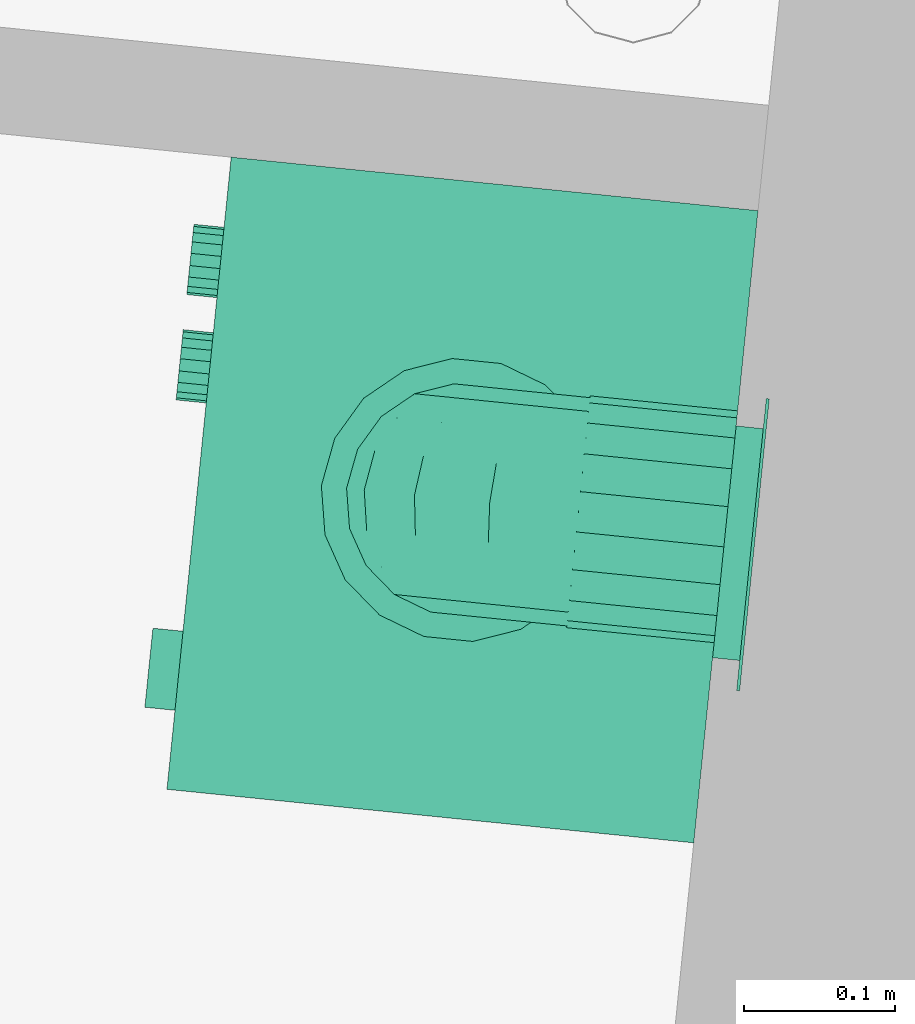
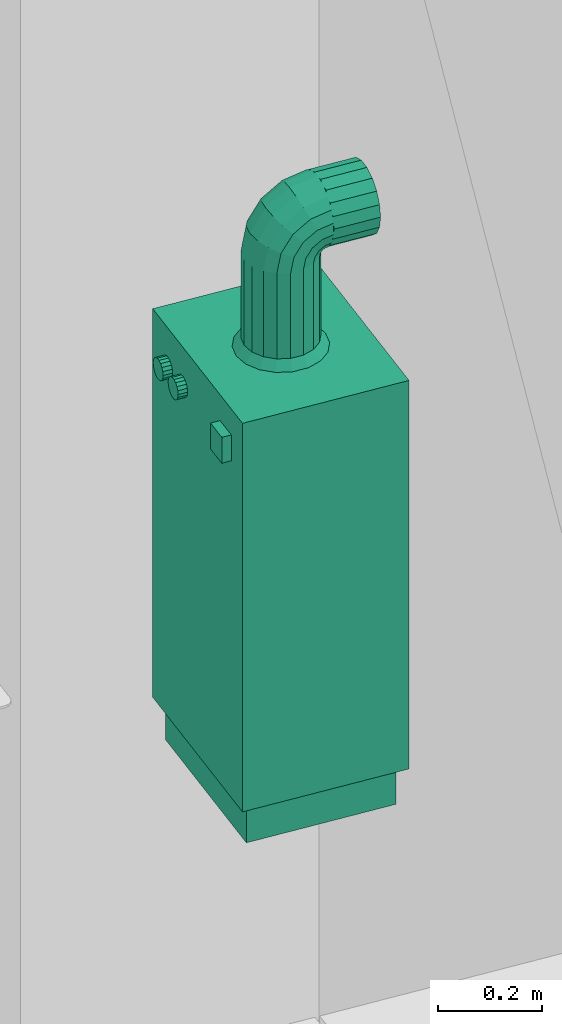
# One storey, part 113 of 164: 1 distribution element.
"""IFC2X3 building model written with IfcOpenShell, lengths in millimetres."""

from ifc_helpers import new_model, entity, si_unit, converted_unit, derived_unit, money_unit, direction, frame, origin_with_axes, place, context, subcontext, project, spatial, open_shell, faceted_brep, surface_model, source, transform, mapped, type_object, element, save


model = new_model("IFC2X3")

# Units and contexts
model_context = context("Model", 3, precision=0.01, world=origin_with_axes(), true_north=direction((0.0, 1.0)))
body_context = subcontext(model_context, "Body", "Model", "MODEL_VIEW")
ifc_project = project(units=[si_unit("LENGTHUNIT", "METRE", prefix="MILLI"), si_unit("AREAUNIT", "SQUARE_METRE"), si_unit("VOLUMEUNIT", "CUBIC_METRE"), converted_unit("PLANEANGLEUNIT", "DEGREE", entity("IfcPlaneAngleMeasure", 0.0174532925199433), si_unit("PLANEANGLEUNIT", "RADIAN"), dimensions=[0, 0, 0, 0, 0, 0, 0]), money_unit("USD"), converted_unit("TIMEUNIT", "Year", entity("IfcTimeMeasure", 31557600.0), si_unit("TIMEUNIT", "SECOND"), dimensions=[0, 0, 1, 0, 0, 0, 0]), si_unit("MASSUNIT", "GRAM", prefix="KILO"), si_unit("THERMODYNAMICTEMPERATUREUNIT", "DEGREE_CELSIUS"), si_unit("LUMINOUSINTENSITYUNIT", "LUMEN"), si_unit("ENERGYUNIT", "JOULE", prefix="MEGA"), derived_unit("THERMALCONDUCTANCEUNIT", [(si_unit("POWERUNIT", "WATT"), 1), (si_unit("LENGTHUNIT", "METRE"), -1), (si_unit("THERMODYNAMICTEMPERATUREUNIT", "KELVIN"), -1)]), derived_unit("SPECIFICHEATCAPACITYUNIT", [(si_unit("ENERGYUNIT", "JOULE"), 1), (si_unit("MASSUNIT", "GRAM", prefix="KILO"), -1), (si_unit("THERMODYNAMICTEMPERATUREUNIT", "KELVIN"), -1)]), derived_unit("MASSDENSITYUNIT", [(si_unit("MASSUNIT", "GRAM", prefix="KILO"), 1), (si_unit("VOLUMEUNIT", "CUBIC_METRE"), -1)])], contexts=[model_context])

# Site, building, storey
site_placement = place(None, origin_with_axes())
site = spatial("IfcSite", under=ifc_project, at=site_placement, Name="Site", CompositionType="ELEMENT")
building_placement = place(site_placement, origin_with_axes())
building = spatial("IfcBuilding", under=site, at=building_placement, Name="Bâtiment", CompositionType="ELEMENT")
storey_placement = place(building_placement, frame((0.0, 0.0, 5750.0), z_axis=(0.0, 0.0, 1.0), x_axis=(1.0, 0.0, 0.0)))
storey = spatial("IfcBuildingStorey", under=building, at=storey_placement, Name="Etage1", CompositionType="ELEMENT", Elevation=5750.0)

# Distribution element
distribution_element_type = type_object("IfcDistributionElementType", Name="Chaudière à gaz 27")
shared_shape = source(origin_with_axes(), body_context, "Body", "SurfaceModel", [
    surface_model("IfcShellBasedSurfaceModel", [(-200.0, 350.0, 34.90909090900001), (-200.0, 368.0, 34.90909090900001), (-180.0709335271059, 368.0, 37.53280228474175), (-180.0709335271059, 350.0, 37.53280228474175), (-219.9290664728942, 350.0, 37.53280228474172), (-219.9290664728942, 368.0, 37.53280228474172), (-161.5, 368.0, 45.22513481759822), (-161.5, 350.0, 45.22513481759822), (-238.5000000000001, 350.0, 45.22513481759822), (-238.5000000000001, 368.0, 45.22513481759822), (-145.5527778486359, 368.0, 57.46186875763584), (-145.5527778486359, 350.0, 57.46186875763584), (-254.4472221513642, 350.0, 57.46186875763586), (-254.4472221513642, 368.0, 57.46186875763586), (-133.3160439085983, 368.0, 73.409090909), (-133.3160439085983, 350.0, 73.409090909), (-266.6839560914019, 350.0, 73.40909090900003), (-266.6839560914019, 368.0, 73.40909090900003), (-125.6237113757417, 368.0, 91.9800244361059), (-125.6237113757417, 350.0, 91.9800244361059), (-274.3762886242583, 350.0, 91.98002443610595), (-274.3762886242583, 368.0, 91.98002443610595), (-123.0, 368.0, 111.909090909), (-123.0, 350.0, 111.909090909), (-277.0, 350.0, 111.909090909), (-277.0, 368.0, 111.909090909), (-125.6237113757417, 368.0, 131.8381573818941), (-125.6237113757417, 350.0, 131.8381573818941), (-274.3762886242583, 350.0, 131.8381573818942), (-274.3762886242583, 368.0, 131.8381573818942), (-133.3160439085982, 368.0, 150.409090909), (-133.3160439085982, 350.0, 150.409090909), (-266.6839560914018, 350.0, 150.4090909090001), (-266.6839560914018, 368.0, 150.4090909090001), (-145.5527778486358, 368.0, 166.3563130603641), (-145.5527778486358, 350.0, 166.3563130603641), (-254.4472221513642, 350.0, 166.3563130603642), (-254.4472221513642, 368.0, 166.3563130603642), (-161.5, 368.0, 178.5930470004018), (-161.5, 350.0, 178.5930470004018), (-238.5, 350.0, 178.5930470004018), (-238.5, 368.0, 178.5930470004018), (-180.0709335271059, 368.0, 186.2853795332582), (-180.0709335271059, 350.0, 186.2853795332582), (-219.929066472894, 350.0, 186.2853795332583), (-219.929066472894, 368.0, 186.2853795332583), (-200.0, 368.0, 188.909090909), (-200.0, 350.0, 188.909090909)], [open_shell([[[0, 1, 2, 3]], [[4, 5, 1, 0]], [[3, 2, 6, 7]], [[8, 9, 5, 4]], [[7, 6, 10, 11]], [[12, 13, 9, 8]], [[11, 10, 14, 15]], [[16, 17, 13, 12]], [[15, 14, 18, 19]], [[20, 21, 17, 16]], [[19, 18, 22, 23]], [[24, 25, 21, 20]], [[23, 22, 26, 27]], [[28, 29, 25, 24]], [[27, 26, 30, 31]], [[32, 33, 29, 28]], [[31, 30, 34, 35]], [[36, 37, 33, 32]], [[35, 34, 38, 39]], [[40, 41, 37, 36]], [[39, 38, 42, 43]], [[44, 45, 41, 40]], [[43, 42, 46, 47]], [[47, 46, 45, 44]]])]),
    faceted_brep([(-200.0, 368.0, 14.909090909), (-200.0, 370.0, 14.909090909), (-174.8945526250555, 370.0, 18.21428575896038), (-174.8945526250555, 368.0, 18.21428575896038), (-225.1054473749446, 368.0, 18.21428575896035), (-225.1054473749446, 370.0, 18.21428575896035), (-248.5000000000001, 370.0, 27.90462674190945), (-268.5893577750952, 370.0, 43.31973313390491), (-284.0044641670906, 370.0, 63.40909090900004), (-293.6948051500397, 370.0, 86.80364353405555), (-297.0000000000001, 370.0, 111.909090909), (-293.6948051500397, 370.0, 137.0145382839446), (-284.0044641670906, 370.0, 160.4090909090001), (-268.5893577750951, 370.0, 180.4984486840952), (-248.5, 370.0, 195.9135550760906), (-225.1054473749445, 370.0, 205.6038960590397), (-199.9999999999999, 370.0, 208.909090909), (-174.8945526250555, 370.0, 205.6038960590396), (-151.5, 370.0, 195.9135550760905), (-131.4106422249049, 370.0, 180.4984486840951), (-115.9955358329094, 370.0, 160.409090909), (-106.3051948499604, 370.0, 137.0145382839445), (-103.0, 370.0, 111.909090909), (-106.3051948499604, 370.0, 86.80364353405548), (-115.9955358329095, 370.0, 63.40909090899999), (-131.4106422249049, 370.0, 43.31973313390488), (-151.5, 370.0, 27.90462674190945), (-200.0, 370.0, 34.90909090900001), (-180.0709335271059, 370.0, 37.53280228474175), (-161.5, 370.0, 45.22513481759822), (-145.5527778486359, 370.0, 57.46186875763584), (-133.3160439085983, 370.0, 73.409090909), (-125.6237113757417, 370.0, 91.9800244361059), (-123.0, 370.0, 111.909090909), (-125.6237113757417, 370.0, 131.8381573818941), (-133.3160439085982, 370.0, 150.409090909), (-145.5527778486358, 370.0, 166.3563130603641), (-161.5, 370.0, 178.5930470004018), (-180.0709335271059, 370.0, 186.2853795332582), (-200.0, 370.0, 188.909090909), (-219.929066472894, 370.0, 186.2853795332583), (-238.5, 370.0, 178.5930470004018), (-254.4472221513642, 370.0, 166.3563130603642), (-266.6839560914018, 370.0, 150.4090909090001), (-274.3762886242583, 370.0, 131.8381573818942), (-277.0, 370.0, 111.909090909), (-274.3762886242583, 370.0, 91.98002443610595), (-266.6839560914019, 370.0, 73.40909090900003), (-254.4472221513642, 370.0, 57.46186875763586), (-238.5000000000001, 370.0, 45.22513481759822), (-219.9290664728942, 370.0, 37.53280228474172), (-151.5, 368.0, 27.90462674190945), (-131.4106422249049, 368.0, 43.31973313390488), (-115.9955358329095, 368.0, 63.40909090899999), (-106.3051948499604, 368.0, 86.80364353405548), (-103.0, 368.0, 111.909090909), (-106.3051948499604, 368.0, 137.0145382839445), (-115.9955358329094, 368.0, 160.409090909), (-131.4106422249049, 368.0, 180.4984486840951), (-151.5, 368.0, 195.9135550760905), (-174.8945526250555, 368.0, 205.6038960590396), (-199.9999999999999, 368.0, 208.909090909), (-225.1054473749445, 368.0, 205.6038960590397), (-248.5, 368.0, 195.9135550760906), (-268.5893577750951, 368.0, 180.4984486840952), (-284.0044641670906, 368.0, 160.4090909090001), (-293.6948051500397, 368.0, 137.0145382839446), (-297.0000000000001, 368.0, 111.909090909), (-293.6948051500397, 368.0, 86.80364353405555), (-284.0044641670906, 368.0, 63.40909090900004), (-268.5893577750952, 368.0, 43.31973313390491), (-248.5000000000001, 368.0, 27.90462674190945), (-200.0, 368.0, 34.90909090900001), (-219.9290664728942, 368.0, 37.53280228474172), (-238.5000000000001, 368.0, 45.22513481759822), (-254.4472221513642, 368.0, 57.46186875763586), (-266.6839560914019, 368.0, 73.40909090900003), (-274.3762886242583, 368.0, 91.98002443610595), (-277.0, 368.0, 111.909090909), (-274.3762886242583, 368.0, 131.8381573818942), (-266.6839560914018, 368.0, 150.4090909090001), (-254.4472221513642, 368.0, 166.3563130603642), (-238.5, 368.0, 178.5930470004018), (-219.929066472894, 368.0, 186.2853795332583), (-200.0, 368.0, 188.909090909), (-180.0709335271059, 368.0, 186.2853795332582), (-161.5, 368.0, 178.5930470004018), (-145.5527778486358, 368.0, 166.3563130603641), (-133.3160439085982, 368.0, 150.409090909), (-125.6237113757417, 368.0, 131.8381573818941), (-123.0, 368.0, 111.909090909), (-125.6237113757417, 368.0, 91.9800244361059), (-133.3160439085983, 368.0, 73.409090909), (-145.5527778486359, 368.0, 57.46186875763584), (-161.5, 368.0, 45.22513481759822), (-180.0709335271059, 368.0, 37.53280228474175)], [[[0, 1, 2, 3]], [[4, 5, 1, 0]], [[1, 5, 6, 7, 8, 9, 10, 11, 12, 13, 14, 15, 16, 17, 18, 19, 20, 21, 22, 23, 24, 25, 26, 2], [27, 28, 29, 30, 31, 32, 33, 34, 35, 36, 37, 38, 39, 40, 41, 42, 43, 44, 45, 46, 47, 48, 49, 50]], [[3, 2, 26, 51]], [[0, 3, 51, 52, 53, 54, 55, 56, 57, 58, 59, 60, 61, 62, 63, 64, 65, 66, 67, 68, 69, 70, 71, 4], [72, 73, 74, 75, 76, 77, 78, 79, 80, 81, 82, 83, 84, 85, 86, 87, 88, 89, 90, 91, 92, 93, 94, 95]], [[71, 6, 5, 4]], [[70, 7, 6, 71]], [[69, 8, 7, 70]], [[68, 9, 8, 69]], [[67, 10, 9, 68]], [[66, 11, 10, 67]], [[65, 12, 11, 66]], [[64, 13, 12, 65]], [[63, 14, 13, 64]], [[62, 15, 14, 63]], [[61, 16, 15, 62]], [[60, 17, 16, 61]], [[59, 18, 17, 60]], [[58, 19, 18, 59]], [[57, 20, 19, 58]], [[56, 21, 20, 57]], [[55, 22, 21, 56]], [[54, 23, 22, 55]], [[53, 24, 23, 54]], [[52, 25, 24, 53]], [[51, 26, 25, 52]], [[95, 28, 27, 72]], [[94, 29, 28, 95]], [[93, 30, 29, 94]], [[92, 31, 30, 93]], [[91, 32, 31, 92]], [[90, 33, 32, 91]], [[89, 34, 33, 90]], [[88, 35, 34, 89]], [[87, 36, 35, 88]], [[86, 37, 36, 87]], [[85, 38, 37, 86]], [[84, 39, 38, 85]], [[83, 40, 39, 84]], [[82, 41, 40, 83]], [[81, 42, 41, 82]], [[80, 43, 42, 81]], [[79, 44, 43, 80]], [[78, 45, 44, 79]], [[77, 46, 45, 78]], [[76, 47, 46, 77]], [[75, 48, 47, 76]], [[74, 49, 48, 75]], [[73, 50, 49, 74]], [[72, 27, 50, 73]]]),
    faceted_brep([(-399.0, 17.5, 0.0), (-399.0, 332.5, 0.0), (-21.0, 332.5, 0.0), (-21.0, 17.5, 0.0), (-399.0, 17.5, 90.9090909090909), (-399.0, 332.5, 90.9090909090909), (-21.0, 332.5, 90.9090909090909), (-21.0, 17.5, 90.9090909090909)], [[[0, 1, 2, 3]], [[0, 4, 5, 1]], [[1, 5, 6, 2]], [[2, 6, 7, 3]], [[3, 7, 4, 0]], [[7, 6, 5, 4]]]),
    faceted_brep([(0.0, 350.0, 90.9090909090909), (-420.0, 350.0, 90.90909090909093), (-419.9999999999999, 350.0, 1000.0), (0.0, 350.0, 1000.0), (0.0, 0.0, 90.9090909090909), (-420.0, 0.0, 90.90909090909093), (-419.9999999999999, 0.0, 818.1818181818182), (-419.9999999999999, 17.5, 818.1818181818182), (-419.9999999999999, 17.5, 1000.0), (0.0, 17.5, 1000.0), (0.0, 17.5, 818.1818181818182), (0.0, 0.0, 818.1818181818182)], [[[0, 1, 2, 3]], [[4, 5, 1, 0]], [[1, 5, 6, 7, 8, 2]], [[3, 2, 8, 9]], [[0, 3, 9, 10, 11, 4]], [[11, 6, 5, 4]], [[10, 7, 6, 11]], [[9, 8, 7, 10]]]),
    faceted_brep([(-420.0, 0.0, 818.1818181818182), (-420.0, 17.5, 818.1818181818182), (0.0, 17.5, 818.1818181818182), (0.0, 0.0, 818.1818181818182), (-420.0, 0.0, 1000.0), (-420.0, 17.5, 1000.0), (0.0, 17.5, 1000.0), (0.0, 0.0, 1000.0)], [[[0, 1, 2, 3]], [[0, 4, 5, 1]], [[1, 5, 6, 2]], [[2, 6, 7, 3]], [[3, 7, 4, 0]], [[7, 6, 5, 4]]]),
    faceted_brep([(-301.9261611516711, 0.0, 901.1104390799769), (-303.3333333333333, 0.0, 909.0909090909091), (-301.9261611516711, 0.0, 917.0713791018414), (-297.8743703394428, 0.0, 924.0892866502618), (-291.6666666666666, 0.0, 929.2981685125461), (-284.0517908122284, 0.0, 932.0697566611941), (-275.9482091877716, 0.0, 932.0697566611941), (-268.3333333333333, 0.0, 929.2981685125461), (-262.1256296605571, 0.0, 924.0892866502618), (-258.0738388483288, 0.0, 917.0713791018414), (-256.6666666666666, 0.0, 909.0909090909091), (-258.0738388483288, 0.0, 901.1104390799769), (-262.1256296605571, 0.0, 894.0925315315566), (-268.3333333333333, 0.0, 888.8836496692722), (-275.9482091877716, 0.0, 886.1120615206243), (-284.0517908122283, 0.0, 886.1120615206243), (-291.6666666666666, 0.0, 888.8836496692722), (-297.8743703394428, 0.0, 894.0925315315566), (-301.9261611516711, -19.99999999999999, 901.1104390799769), (-303.3333333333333, -19.99999999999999, 909.0909090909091), (-301.9261611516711, -19.99999999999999, 917.0713791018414), (-297.8743703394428, -19.99999999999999, 924.0892866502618), (-291.6666666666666, -19.99999999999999, 929.2981685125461), (-284.0517908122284, -19.99999999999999, 932.0697566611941), (-275.9482091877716, -19.99999999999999, 932.0697566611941), (-268.3333333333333, -19.99999999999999, 929.2981685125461), (-262.1256296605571, -19.99999999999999, 924.0892866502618), (-258.0738388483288, -19.99999999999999, 917.0713791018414), (-256.6666666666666, -19.99999999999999, 909.0909090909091), (-258.0738388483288, -19.99999999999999, 901.1104390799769), (-262.1256296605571, -19.99999999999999, 894.0925315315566), (-268.3333333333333, -19.99999999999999, 888.8836496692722), (-275.9482091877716, -19.99999999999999, 886.1120615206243), (-284.0517908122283, -19.99999999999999, 886.1120615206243), (-291.6666666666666, -19.99999999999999, 888.8836496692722), (-297.8743703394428, -19.99999999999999, 894.0925315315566)], [[[0, 1, 2, 3, 4, 5, 6, 7, 8, 9, 10, 11, 12, 13, 14, 15, 16, 17]], [[0, 18, 19, 1]], [[1, 19, 20, 2]], [[2, 20, 21, 3]], [[3, 21, 22, 4]], [[4, 22, 23, 5]], [[5, 23, 24, 6]], [[6, 24, 25, 7]], [[7, 25, 26, 8]], [[8, 26, 27, 9]], [[9, 27, 28, 10]], [[10, 28, 29, 11]], [[11, 29, 30, 12]], [[12, 30, 31, 13]], [[13, 31, 32, 14]], [[14, 32, 33, 15]], [[15, 33, 34, 16]], [[16, 34, 35, 17]], [[17, 35, 18, 0]], [[18, 35, 34, 33, 32, 31, 30, 29, 28, 27, 26, 25, 24, 23, 22, 21, 20, 19]]]),
    faceted_brep([(-371.9261611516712, 0.0, 901.1104390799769), (-373.3333333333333, 0.0, 909.0909090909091), (-371.9261611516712, 0.0, 917.0713791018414), (-367.8743703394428, 0.0, 924.0892866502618), (-361.6666666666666, 0.0, 929.2981685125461), (-354.0517908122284, 0.0, 932.0697566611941), (-345.9482091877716, 0.0, 932.0697566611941), (-338.3333333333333, 0.0, 929.2981685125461), (-332.1256296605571, 0.0, 924.0892866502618), (-328.0738388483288, 0.0, 917.0713791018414), (-326.6666666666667, 0.0, 909.0909090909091), (-328.0738388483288, 0.0, 901.1104390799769), (-332.1256296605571, 0.0, 894.0925315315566), (-338.3333333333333, 0.0, 888.8836496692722), (-345.9482091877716, 0.0, 886.1120615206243), (-354.0517908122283, 0.0, 886.1120615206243), (-361.6666666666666, 0.0, 888.8836496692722), (-367.8743703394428, 0.0, 894.0925315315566), (-371.9261611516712, -19.99999999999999, 901.1104390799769), (-373.3333333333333, -19.99999999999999, 909.0909090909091), (-371.9261611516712, -19.99999999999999, 917.0713791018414), (-367.8743703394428, -19.99999999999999, 924.0892866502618), (-361.6666666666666, -19.99999999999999, 929.2981685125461), (-354.0517908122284, -19.99999999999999, 932.0697566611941), (-345.9482091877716, -19.99999999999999, 932.0697566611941), (-338.3333333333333, -19.99999999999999, 929.2981685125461), (-332.1256296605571, -19.99999999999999, 924.0892866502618), (-328.0738388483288, -19.99999999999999, 917.0713791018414), (-326.6666666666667, -19.99999999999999, 909.0909090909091), (-328.0738388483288, -19.99999999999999, 901.1104390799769), (-332.1256296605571, -19.99999999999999, 894.0925315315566), (-338.3333333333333, -19.99999999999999, 888.8836496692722), (-345.9482091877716, -19.99999999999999, 886.1120615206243), (-354.0517908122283, -19.99999999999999, 886.1120615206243), (-361.6666666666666, -19.99999999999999, 888.8836496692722), (-367.8743703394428, -19.99999999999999, 894.0925315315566)], [[[0, 1, 2, 3, 4, 5, 6, 7, 8, 9, 10, 11, 12, 13, 14, 15, 16, 17]], [[0, 18, 19, 1]], [[1, 19, 20, 2]], [[2, 20, 21, 3]], [[3, 21, 22, 4]], [[4, 22, 23, 5]], [[5, 23, 24, 6]], [[6, 24, 25, 7]], [[7, 25, 26, 8]], [[8, 26, 27, 9]], [[9, 27, 28, 10]], [[10, 28, 29, 11]], [[11, 29, 30, 12]], [[12, 30, 31, 13]], [[13, 31, 32, 14]], [[14, 32, 33, 15]], [[15, 33, 34, 16]], [[16, 34, 35, 17]], [[17, 35, 18, 0]], [[18, 35, 34, 33, 32, 31, 30, 29, 28, 27, 26, 25, 24, 23, 22, 21, 20, 19]]]),
    faceted_brep([(-105.0, 0.0, 878.7878787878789), (-105.0, 0.0, 939.3939393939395), (-52.5, 0.0, 939.3939393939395), (-52.5, 0.0, 878.7878787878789), (-105.0, -20.0, 878.7878787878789), (-105.0, -19.99999999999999, 939.3939393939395), (-52.5, -19.99999999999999, 939.3939393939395), (-52.5, -20.0, 878.7878787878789)], [[[0, 1, 2, 3]], [[0, 4, 5, 1]], [[1, 5, 6, 2]], [[2, 6, 7, 3]], [[3, 7, 4, 0]], [[7, 6, 5, 4]]]),
    surface_model("IfcShellBasedSurfaceModel", [(-183.6644489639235, 247.3563318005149, 1220.0), (-183.6644489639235, 247.3563318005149, 1020.0), (-210.0, 252.0, 1020.0), (-210.0, 252.0, 1220.0), (-160.5053540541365, 233.9854221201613, 1220.0), (-160.5053540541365, 233.9854221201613, 1020.0), (-177.9356115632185, 263.0961831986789, 1000.0), (-210.0, 268.75, 1000.0), (-236.3355510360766, 247.356331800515, 1020.0), (-236.3355510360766, 247.356331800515, 1220.0), (-143.3160439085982, 213.5, 1220.0), (-143.3160439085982, 213.5, 1020.0), (-149.7386615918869, 246.8166665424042, 1000.0), (-242.0643884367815, 263.0961831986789, 1000.0), (-259.4946459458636, 233.9854221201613, 1020.0), (-259.4946459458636, 233.9854221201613, 1220.0), (-134.16980301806, 188.3709096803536, 1220.0), (-134.16980301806, 188.3709096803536, 1020.0), (-128.8101183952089, 221.875, 1000.0), (-270.2613384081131, 246.8166665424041, 1000.0), (-276.6839560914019, 213.5, 1020.0), (-276.6839560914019, 213.5, 1220.0), (-134.16980301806, 161.6290903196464, 1220.0), (-134.16980301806, 161.6290903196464, 1020.0), (-117.6742731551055, 191.2795166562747, 1000.0), (-291.1898816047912, 221.8749999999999, 1000.0), (-285.83019698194, 188.3709096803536, 1020.0), (-285.83019698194, 188.3709096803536, 1220.0), (-143.3160439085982, 136.5, 1220.0), (-143.3160439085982, 136.5, 1020.0), (-117.6742731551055, 158.7204833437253, 1000.0), (-302.3257268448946, 191.2795166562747, 1000.0), (-285.83019698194, 161.6290903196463, 1020.0), (-285.83019698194, 161.6290903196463, 1220.0), (-160.5053540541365, 116.0145778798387, 1220.0), (-160.5053540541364, 116.0145778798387, 1020.0), (-128.8101183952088, 128.125, 1000.0), (-302.3257268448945, 158.7204833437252, 1000.0), (-276.6839560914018, 136.4999999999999, 1020.0), (-276.6839560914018, 136.4999999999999, 1220.0), (-183.6644489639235, 102.643668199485, 1220.0), (-183.6644489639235, 102.643668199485, 1020.0), (-149.7386615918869, 103.1833334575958, 1000.0), (-291.1898816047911, 128.1249999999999, 1000.0), (-259.4946459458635, 116.0145778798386, 1020.0), (-259.4946459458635, 116.0145778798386, 1220.0), (-210.0, 97.99999999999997, 1220.0), (-210.0, 97.99999999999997, 1020.0), (-177.9356115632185, 86.90381680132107, 1000.0), (-270.261338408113, 103.1833334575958, 1000.0), (-236.3355510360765, 102.643668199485, 1020.0), (-236.3355510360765, 102.643668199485, 1220.0), (-210.0, 81.24999999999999, 1000.0), (-242.0643884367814, 86.90381680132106, 1000.0)], [open_shell([[[0, 1, 2, 3]], [[4, 5, 1, 0]], [[1, 6, 7, 2]], [[3, 2, 8, 9]], [[10, 11, 5, 4]], [[5, 12, 6, 1]], [[2, 7, 13, 8]], [[9, 8, 14, 15]], [[16, 17, 11, 10]], [[11, 18, 12, 5]], [[8, 13, 19, 14]], [[15, 14, 20, 21]], [[22, 23, 17, 16]], [[17, 24, 18, 11]], [[14, 19, 25, 20]], [[21, 20, 26, 27]], [[28, 29, 23, 22]], [[23, 30, 24, 17]], [[20, 25, 31, 26]], [[27, 26, 32, 33]], [[34, 35, 29, 28]], [[29, 36, 30, 23]], [[26, 31, 37, 32]], [[33, 32, 38, 39]], [[40, 41, 35, 34]], [[35, 42, 36, 29]], [[32, 37, 43, 38]], [[39, 38, 44, 45]], [[46, 47, 41, 40]], [[41, 48, 42, 35]], [[38, 43, 49, 44]], [[45, 44, 50, 51]], [[51, 50, 47, 46]], [[47, 52, 48, 41]], [[44, 49, 53, 50]], [[50, 53, 52, 47]]])]),
    faceted_brep([(-285.83019698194, 161.6290903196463, 1220.0), (-285.83019698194, 168.5081662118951, 1254.583449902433), (-285.83019698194, 193.2143857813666, 1244.349798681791), (-285.83019698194, 188.3709096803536, 1220.0), (-276.6839560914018, 136.4999999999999, 1220.0), (-276.6839560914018, 145.2919139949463, 1264.199936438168), (-285.83019698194, 188.0981169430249, 1283.901883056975), (-285.83019698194, 207.0074387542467, 1264.992561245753), (-276.6839560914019, 213.4999999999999, 1220.0), (-276.6839560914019, 216.4306379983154, 1234.733312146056), (-259.4946459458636, 233.9854221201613, 1220.0), (-236.3355510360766, 247.356331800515, 1220.0), (-210.0, 252.0, 1220.0), (-183.6644489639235, 247.3563318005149, 1220.0), (-160.5053540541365, 233.9854221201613, 1220.0), (-143.3160439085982, 213.5, 1220.0), (-134.16980301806, 188.3709096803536, 1220.0), (-134.16980301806, 161.6290903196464, 1220.0), (-143.3160439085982, 136.5, 1220.0), (-160.5053540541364, 116.0145778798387, 1220.0), (-183.6644489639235, 102.643668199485, 1220.0), (-210.0, 97.99999999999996, 1220.0), (-236.3355510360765, 102.643668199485, 1220.0), (-259.4946459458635, 116.0145778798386, 1220.0), (-259.4946459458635, 126.3658517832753, 1272.039368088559), (-276.6839560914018, 170.3291667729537, 1301.670833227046), (-285.83019698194, 217.4165500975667, 1303.491833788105), (-285.83019698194, 227.6502013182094, 1278.785614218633), (-276.6839560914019, 224.7763889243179, 1247.223611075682), (-259.4946459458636, 235.3567002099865, 1226.893880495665), (-236.3355510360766, 247.7098099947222, 1221.777054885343), (-183.6644489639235, 247.7098099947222, 1221.777054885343), (-160.5053540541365, 235.3567002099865, 1226.893880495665), (-143.3160439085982, 216.4306379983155, 1234.733312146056), (-134.16980301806, 193.2143857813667, 1244.349798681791), (-134.16980301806, 168.5081662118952, 1254.583449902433), (-143.3160439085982, 145.2919139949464, 1264.199936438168), (-160.5053540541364, 126.3658517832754, 1272.039368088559), (-183.6644489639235, 114.0127419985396, 1277.15619369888), (-210.0, 109.7225519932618, 1278.933248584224), (-236.3355510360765, 114.0127419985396, 1277.15619369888), (-259.4946459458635, 155.8437858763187, 1316.156214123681), (-276.6839560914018, 207.8000635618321, 1326.708086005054), (-285.83019698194, 252.0, 1310.370909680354), (-285.83019698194, 252.0, 1283.629090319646), (-276.6839560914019, 237.266687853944, 1255.569362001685), (-259.4946459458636, 239.2617698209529, 1232.738230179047), (-236.3355510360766, 248.7164307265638, 1223.283569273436), (-183.6644489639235, 248.7164307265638, 1223.283569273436), (-160.5053540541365, 239.2617698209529, 1232.738230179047), (-143.3160439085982, 224.7763889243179, 1247.223611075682), (-134.16980301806, 207.0074387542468, 1264.992561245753), (-134.16980301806, 188.0981169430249, 1283.901883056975), (-143.3160439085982, 170.3291667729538, 1301.670833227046), (-160.5053540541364, 155.8437858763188, 1316.156214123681), (-183.6644489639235, 146.3891249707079, 1325.610875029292), (-210.0, 143.1055556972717, 1328.894444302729), (-236.3355510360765, 146.3891249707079, 1325.610875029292), (-259.4946459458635, 199.9606319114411, 1345.634148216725), (-276.6839560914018, 252.0, 1335.5), (-276.6839560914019, 252.0, 1258.5), (-259.4946459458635, 252.0, 1355.985422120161), (-236.3355510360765, 252.0, 1369.356331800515), (-210.0, 252.0, 1374.0), (-183.6644489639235, 252.0, 1369.356331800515), (-160.5053540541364, 252.0, 1355.985422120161), (-143.3160439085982, 252.0, 1335.5), (-134.16980301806, 252.0, 1310.370909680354), (-134.16980301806, 252.0, 1283.629090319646), (-143.3160439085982, 252.0, 1258.5), (-160.5053540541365, 252.0, 1238.014577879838), (-183.6644489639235, 252.0, 1224.643668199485), (-236.3355510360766, 252.0, 1224.643668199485), (-259.4946459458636, 252.0, 1238.014577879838), (-259.4946459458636, 245.1061195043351, 1236.643299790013), (-236.3355510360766, 250.2229451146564, 1224.290190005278), (-183.6644489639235, 250.2229451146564, 1224.290190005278), (-160.5053540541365, 245.1061195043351, 1236.643299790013), (-143.3160439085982, 237.2666878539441, 1255.569362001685), (-134.16980301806, 227.6502013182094, 1278.785614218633), (-134.16980301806, 217.4165500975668, 1303.491833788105), (-143.3160439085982, 207.8000635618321, 1326.708086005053), (-160.5053540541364, 199.9606319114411, 1345.634148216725), (-183.6644489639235, 194.8438063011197, 1357.98725800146), (-210.0, 193.0667514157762, 1362.277448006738), (-236.3355510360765, 194.8438063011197, 1357.98725800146)], [[[0, 1, 2, 3]], [[1, 0, 4, 5]], [[1, 6, 7, 2]], [[8, 3, 2, 9]], [[4, 0, 3, 8, 10, 11, 12, 13, 14, 15, 16, 17, 18, 19, 20, 21, 22, 23]], [[5, 4, 23, 24]], [[6, 1, 5, 25]], [[7, 6, 26, 27]], [[2, 7, 28, 9]], [[29, 10, 8, 9]], [[10, 29, 30, 11]], [[11, 30, 12]], [[31, 13, 12]], [[13, 31, 32, 14]], [[33, 15, 14, 32]], [[15, 33, 34, 16]], [[35, 17, 16, 34]], [[18, 17, 35, 36]], [[37, 19, 18, 36]], [[20, 19, 37, 38]], [[39, 21, 20, 38]], [[22, 21, 39, 40]], [[24, 23, 22, 40]], [[25, 5, 24, 41]], [[6, 25, 42, 26]], [[27, 26, 43, 44]], [[45, 28, 7, 27]], [[46, 29, 9, 28]], [[29, 46, 47, 30]], [[30, 47, 12]], [[48, 31, 12]], [[31, 48, 49, 32]], [[32, 49, 50, 33]], [[34, 33, 50, 51]], [[52, 35, 34, 51]], [[35, 52, 53, 36]], [[54, 37, 36, 53]], [[38, 37, 54, 55]], [[56, 39, 38, 55]], [[57, 40, 39, 56]], [[41, 24, 40, 57]], [[42, 25, 41, 58]], [[26, 42, 59, 43]], [[60, 44, 43, 59, 61, 62, 63, 64, 65, 66, 67, 68, 69, 70, 71, 12, 72, 73]], [[45, 27, 44, 60]], [[28, 45, 74, 46]], [[46, 74, 75, 47]], [[47, 75, 12]], [[76, 48, 12]], [[48, 76, 77, 49]], [[49, 77, 78, 50]], [[50, 78, 79, 51]], [[52, 51, 79, 80]], [[53, 52, 80, 81]], [[82, 54, 53, 81]], [[55, 54, 82, 83]], [[56, 55, 83, 84]], [[85, 57, 56, 84]], [[58, 41, 57, 85]], [[59, 42, 58, 61]], [[61, 58, 85, 62]], [[62, 85, 84, 63]], [[84, 83, 64, 63]], [[82, 65, 64, 83]], [[65, 82, 81, 66]], [[81, 80, 67, 66]], [[80, 79, 68, 67]], [[79, 78, 69, 68]], [[77, 70, 69, 78]], [[77, 76, 71, 70]], [[76, 12, 71]], [[75, 72, 12]], [[74, 73, 72, 75]], [[45, 60, 73, 74]]]),
    surface_model("IfcShellBasedSurfaceModel", [(-137.643668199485, 350.0, 1323.335551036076), (-137.643668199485, 252.0, 1323.335551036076), (-133.0, 252.0, 1297.0), (-133.0, 350.0, 1297.0), (-151.0145778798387, 350.0, 1346.494645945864), (-151.0145778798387, 252.0, 1346.494645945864), (-137.643668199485, 252.0, 1270.664448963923), (-137.643668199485, 350.0, 1270.664448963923), (-171.5, 350.0, 1363.683956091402), (-171.5, 252.0, 1363.683956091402), (-151.0145778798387, 252.0, 1247.505354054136), (-151.0145778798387, 350.0, 1247.505354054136), (-196.6290903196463, 350.0, 1372.83019698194), (-196.6290903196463, 252.0, 1372.83019698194), (-171.5, 252.0, 1230.316043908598), (-171.5, 350.0, 1230.316043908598), (-223.3709096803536, 350.0, 1372.83019698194), (-223.3709096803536, 252.0, 1372.83019698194), (-196.6290903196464, 252.0, 1221.16980301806), (-196.6290903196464, 350.0, 1221.16980301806), (-248.5, 350.0, 1363.683956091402), (-248.5, 252.0, 1363.683956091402), (-223.3709096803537, 252.0, 1221.16980301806), (-223.3709096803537, 350.0, 1221.16980301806), (-268.9854221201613, 350.0, 1346.494645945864), (-268.9854221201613, 252.0, 1346.494645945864), (-248.5000000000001, 252.0, 1230.316043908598), (-248.5000000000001, 350.0, 1230.316043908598), (-282.356331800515, 350.0, 1323.335551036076), (-282.356331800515, 252.0, 1323.335551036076), (-268.9854221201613, 252.0, 1247.505354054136), (-268.9854221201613, 350.0, 1247.505354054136), (-287.0000000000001, 350.0, 1297.0), (-287.0000000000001, 252.0, 1297.0), (-282.356331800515, 252.0, 1270.664448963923), (-282.356331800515, 350.0, 1270.664448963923)], [open_shell([[[0, 1, 2, 3]], [[4, 5, 1, 0]], [[3, 2, 6, 7]], [[8, 9, 5, 4]], [[7, 6, 10, 11]], [[12, 13, 9, 8]], [[11, 10, 14, 15]], [[16, 17, 13, 12]], [[15, 14, 18, 19]], [[20, 21, 17, 16]], [[19, 18, 22, 23]], [[24, 25, 21, 20]], [[23, 22, 26, 27]], [[28, 29, 25, 24]], [[27, 26, 30, 31]], [[32, 33, 29, 28]], [[31, 30, 34, 35]], [[35, 34, 33, 32]]])]),
])
distribution_element_placement = place(storey_placement, frame((2238605.043882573, -614938.3246437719, 765.2243514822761), z_axis=(0.0, 0.0, 1.0), x_axis=(-0.1011032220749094, -0.9948759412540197, 0.0)))
element("IfcDistributionElement", 1, at=distribution_element_placement, inside=storey, type_object=distribution_element_type, Name="Obj.-003", context=body_context, shape_type="MappedRepresentation", body=[
    mapped(shared_shape, transform((0.0, 0.0, 0.0))),
])

save(model, "model.ifc")
